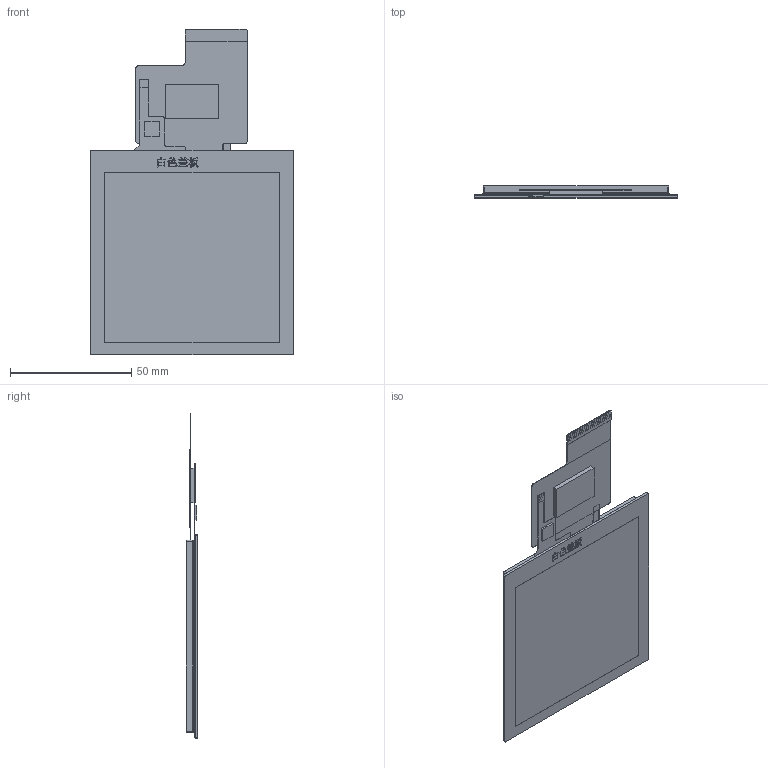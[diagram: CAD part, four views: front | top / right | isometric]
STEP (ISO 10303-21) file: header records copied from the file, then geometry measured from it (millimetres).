
FILE_DESCRIPTION (( 'STEP AP214' ), '1' );
FILE_NAME ('DMG48480F040_01WTCZ01 3D.STEP', '2023-09-14T06:38:46', ( '' ), ( 'Microsoft' ), 'SwSTEP 2.0', 'SolidWorks 2017', '' );
FILE_SCHEMA (( 'AUTOMOTIVE_DESIGN' ));
Length unit declared in the file: millimetre
Products named in the file (4): OCA; TPC040F0038G01V1(GT911)工程图 (白色盖板）; DMG48480F040_01WN; DMG48480F040_01WTCZ01 3D
Assembly tree (3 placements, depth 2):
  DMG48480F040_01WTCZ01 3D
    DMG48480F040_01WN
    TPC040F0038G01V1(GT911)工程图 (白色盖板）
    OCA
Bounding box: 84 x 4.85 x 134.15 mm (x, y, z)
Volume: 30702.1 mm3; surface area: 47275.9 mm2
Topology: 7 solids, 7 shells, 631 faces, 1622 edges, 1082 vertices
Faces by surface type: plane 547, cylinder 42, bspline 42
Entity records: 27656 total; most frequent: CARTESIAN_POINT 5314, ORIENTED_EDGE 3244, DIRECTION 2815, EDGE_CURVE 1622, LINE 1449, VECTOR 1449, VERTEX_POINT 1082, EDGE_LOOP 712
